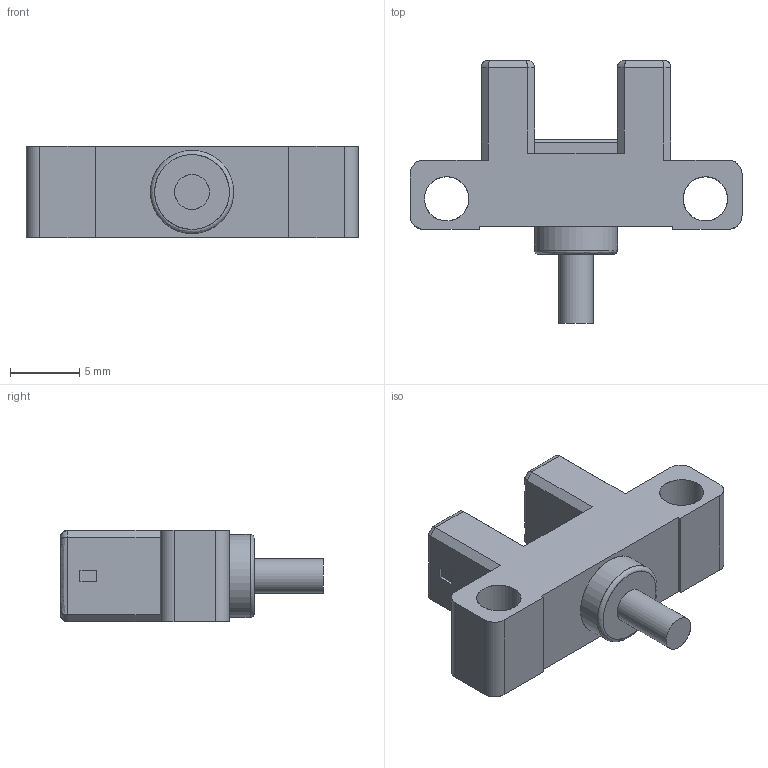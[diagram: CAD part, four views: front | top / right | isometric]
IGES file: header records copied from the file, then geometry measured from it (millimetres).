
Global section: file name: 3DCAD_GSM02_x_Kx_1000.igs; native system: NX V2306; preprocessor: SIEMENS PLM Software NX2306.1700; date: 20240715.151330; units: millimetre
Bounding box: 24 x 19 x 6.6 mm (x, y, z)
Surface area: 1060.8 mm2 (no closed solid volume)
Topology: 0 solids, 0 shells, 85 faces, 498 edges, 494 vertices
Faces by surface type: bspline 85
